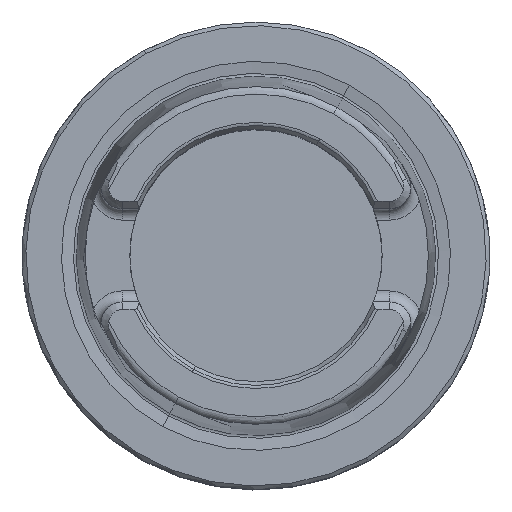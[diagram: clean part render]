
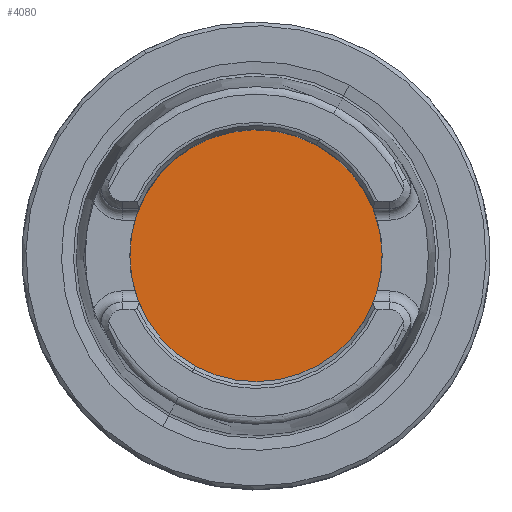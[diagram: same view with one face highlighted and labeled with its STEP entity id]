
A CAD part, top view. The second image highlights one B-rep face of the part: STEP entity #4080.
In plain terms, the highlighted planar face has unit normal (0, 0, 1).
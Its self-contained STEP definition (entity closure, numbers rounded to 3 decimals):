
#4060=AXIS2_PLACEMENT_3D('Plane Axis2P3D',#4057,#4058,#4059) ;
#4064=AXIS2_PLACEMENT_3D('Circle Axis2P3D',#4062,#4063,$) ;
#4073=AXIS2_PLACEMENT_3D('Circle Axis2P3D',#4071,#4072,$) ;
#4057=CARTESIAN_POINT('Axis2P3D Location',(0.,-15.75,-10.)) ;
#4062=CARTESIAN_POINT('Axis2P3D Location',(0.,0.,-10.)) ;
#4066=CARTESIAN_POINT('Vertex',(8.15,14.919,-10.)) ;
#4068=CARTESIAN_POINT('Vertex',(-8.15,-14.919,-10.)) ;
#4071=CARTESIAN_POINT('Axis2P3D Location',(0.,0.,-10.)) ;
#4058=DIRECTION('Axis2P3D Direction',(0.,0.,-1.)) ;
#4059=DIRECTION('Axis2P3D XDirection',(-1.,0.,0.)) ;
#4063=DIRECTION('Axis2P3D Direction',(0.,0.,-1.)) ;
#4072=DIRECTION('Axis2P3D Direction',(0.,0.,-1.)) ;
#4077=ORIENTED_EDGE('',*,*,#4070,.F.) ;
#4078=ORIENTED_EDGE('',*,*,#4075,.F.) ;
#4080=ADVANCED_FACE('NO_CUT',(#4079),#4061,.F.) ;
#4065=CIRCLE('generated circle',#4064,17.) ;
#4074=CIRCLE('generated circle',#4073,17.) ;
#4070=EDGE_CURVE('',#4067,#4069,#4065,.T.) ;
#4075=EDGE_CURVE('',#4069,#4067,#4074,.T.) ;
#4076=EDGE_LOOP('',(#4077,#4078)) ;
#4079=FACE_OUTER_BOUND('',#4076,.T.) ;
#4061=PLANE('',#4060) ;
#4067=VERTEX_POINT('',#4066) ;
#4069=VERTEX_POINT('',#4068) ;
